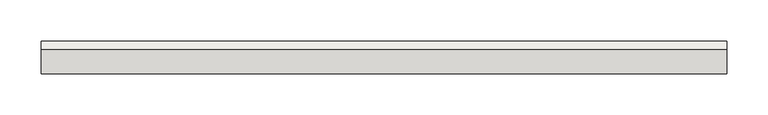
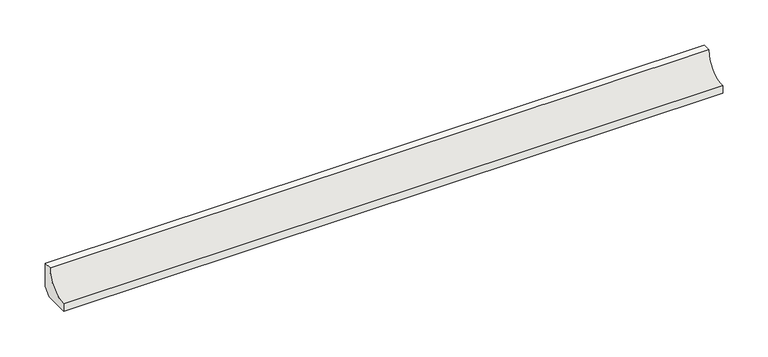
"""IFC4 building model written with IfcOpenShell, lengths in millimetres: slab geometry, ROSA GRES_188 : Pieza 188_Serena_Ocra_Anti-Slip."""

from ifc_helpers import new_model, si_unit, point, frame, frame_2d, origin, place, context, project, spatial, polyline, circle_curve, trimmed, segment, composite_curve, outline, extrude, source, transform, mapped, element, save


def slab_88ad0c29(model_context):
    return source(origin(), model_context, "Body", "SweptSolid", [
        extrude(outline(composite_curve([segment(polyline([(0.0, 8.7114978), (-8.7114978, 0.0), (-40.0, 0.0), (-40.0, 9.9734114)]), True, "CONTINUOUS"), segment(trimmed(circle_curve(frame_2d((-39.9955547, 39.9955547)), 30.0221435), [point((-40.0, 9.9734114))], [point((-9.9734114, 40.0))], True, "CARTESIAN"), True, "CONTINUOUS"), segment(polyline([(-9.9734114, 40.0), (0.0, 40.0), (0.0, 8.7114978)]), True, "CONTINUOUS")], self_intersect=False)), frame((0.0, 0.0, 0.0), z_axis=(1.0, 0.0, 0.0), x_axis=(0.0, 1.0, 0.0)), (0.0, 0.0, 1.0), 836.385009),
    ])


if __name__ == "__main__":
    model = new_model("IFC4")
    model_context = context("Model", 3, world=origin())
    ifc_project = project(units=[si_unit("LENGTHUNIT", "METRE", prefix="MILLI")], contexts=[model_context])
    site = spatial("IfcSite", under=ifc_project)
    building = spatial("IfcBuilding", under=site)
    placement = place(None, origin())
    slab_shape = slab_88ad0c29(model_context)
    element("IfcSlab", 1, ObjectType="ROSA GRES_188 : Pieza 188_Serena_Ocra_Anti-Slip", at=placement, inside=building, context=model_context, shape_type="MappedRepresentation", body=[
        mapped(slab_shape, transform((0.0, 0.0, 0.0), x_axis=(1.0, 0.0, 0.0), y_axis=(0.0, 1.0, 0.0), z_axis=(0.0, 0.0, 1.0))),
    ])
    save(model, "model.ifc")
